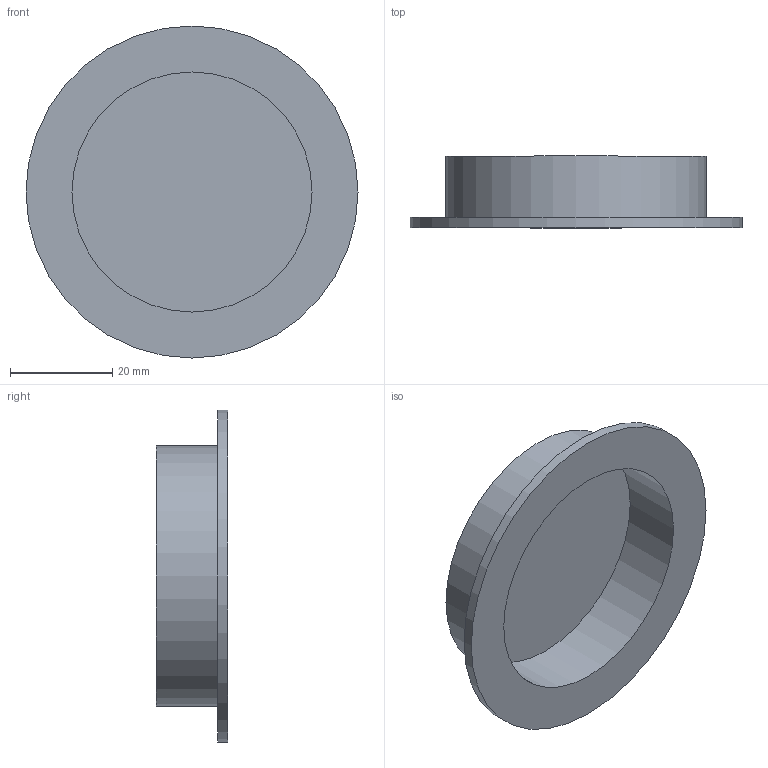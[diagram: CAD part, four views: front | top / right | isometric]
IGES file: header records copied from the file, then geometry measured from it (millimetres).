
Start section: Data from Parasolid IGES Translator 20.0.26, Copyright(c) 2006 Siemens P LM Software. All Rights Reserved.
Global section: file name: 9070138.igs; native system: By Siemens PLM Incorporated; preprocessor: XPlus GENERIC/IGES 20.0.26; author: Noname; organization: Noname; date: 20211130.201244; units: millimetre
Bounding box: 65 x 14 x 65 mm (x, y, z)
Surface area: 10739.6 mm2 (no closed solid volume)
Topology: 0 solids, 0 shells, 7 faces, 18 edges, 12 vertices
Faces by surface type: extrusion 4, revolution 3
